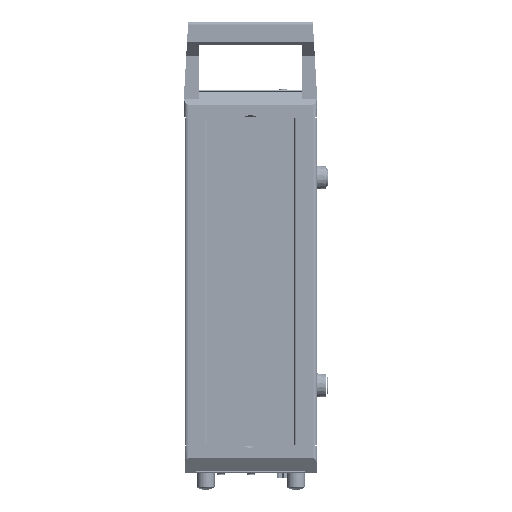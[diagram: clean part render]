
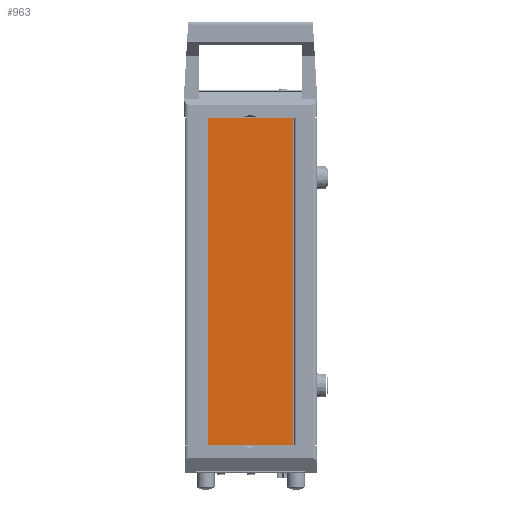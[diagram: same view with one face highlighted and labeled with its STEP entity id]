
A CAD part, left-side view. The second image highlights one B-rep face of the part: STEP entity #963.
In plain terms, the highlighted planar face has unit normal (1, 0, 0).
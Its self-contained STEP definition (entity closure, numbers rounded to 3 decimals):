
#963 = ADVANCED_FACE ( 'NONE', ( #42696 ), #42001, .F. ) ;
#1530 = CARTESIAN_POINT ( 'NONE',  ( -117.22, 63., -206.2 ) ) ;
#3245 = CARTESIAN_POINT ( 'NONE',  ( -117.22, 63., 11.2 ) ) ;
#9899 = EDGE_LOOP ( 'NONE', ( #79328, #85769, #123611, #81808 ) ) ;
#12775 = LINE ( 'NONE', #1530, #53475 ) ;
#13705 = EDGE_CURVE ( 'NONE', #31632, #15756, #12775, .T. ) ;
#15756 = VERTEX_POINT ( 'NONE', #3245 ) ;
#20853 = DIRECTION ( 'NONE',  ( -1., 0., 0. ) ) ;
#21091 = LINE ( 'NONE', #77375, #76864 ) ;
#22487 = LINE ( 'NONE', #128101, #109461 ) ;
#24345 = CARTESIAN_POINT ( 'NONE',  ( -117.22, 6.1, 11.2 ) ) ;
#31441 = CARTESIAN_POINT ( 'NONE',  ( -117.22, 6.1, 11.2 ) ) ;
#31632 = VERTEX_POINT ( 'NONE', #65779 ) ;
#42001 = PLANE ( 'NONE',  #72076 ) ;
#42696 = FACE_OUTER_BOUND ( 'NONE', #9899, .T. ) ;
#53475 = VECTOR ( 'NONE', #119119, 1000. ) ;
#55583 = CARTESIAN_POINT ( 'NONE',  ( -117.22, 6.1, -206.2 ) ) ;
#56754 = LINE ( 'NONE', #57446, #70617 ) ;
#57276 = EDGE_CURVE ( 'NONE', #78565, #82471, #21091, .T. ) ;
#57446 = CARTESIAN_POINT ( 'NONE',  ( -117.22, 63., -206.2 ) ) ;
#63853 = DIRECTION ( 'NONE',  ( 0., 0., 1. ) ) ;
#65779 = CARTESIAN_POINT ( 'NONE',  ( -117.22, 63., -206.2 ) ) ;
#70617 = VECTOR ( 'NONE', #98219, 1000. ) ;
#72076 = AXIS2_PLACEMENT_3D ( 'NONE', #31441, #20853, #63853 ) ;
#76864 = VECTOR ( 'NONE', #85812, 1000. ) ;
#77375 = CARTESIAN_POINT ( 'NONE',  ( -117.22, 6.1, -206.2 ) ) ;
#78565 = VERTEX_POINT ( 'NONE', #24345 ) ;
#79328 = ORIENTED_EDGE ( 'NONE', *, *, #121318, .T. ) ;
#81808 = ORIENTED_EDGE ( 'NONE', *, *, #57276, .T. ) ;
#82378 = EDGE_CURVE ( 'NONE', #15756, #78565, #22487, .T. ) ;
#82471 = VERTEX_POINT ( 'NONE', #55583 ) ;
#85769 = ORIENTED_EDGE ( 'NONE', *, *, #13705, .T. ) ;
#85812 = DIRECTION ( 'NONE',  ( 0., 0., -1. ) ) ;
#98219 = DIRECTION ( 'NONE',  ( 0., 1., 0. ) ) ;
#109461 = VECTOR ( 'NONE', #128796, 1000. ) ;
#119119 = DIRECTION ( 'NONE',  ( 0., 0., 1. ) ) ;
#121318 = EDGE_CURVE ( 'NONE', #82471, #31632, #56754, .T. ) ;
#123611 = ORIENTED_EDGE ( 'NONE', *, *, #82378, .T. ) ;
#128101 = CARTESIAN_POINT ( 'NONE',  ( -117.22, 63., 11.2 ) ) ;
#128796 = DIRECTION ( 'NONE',  ( 0., -1., 0. ) ) ;
